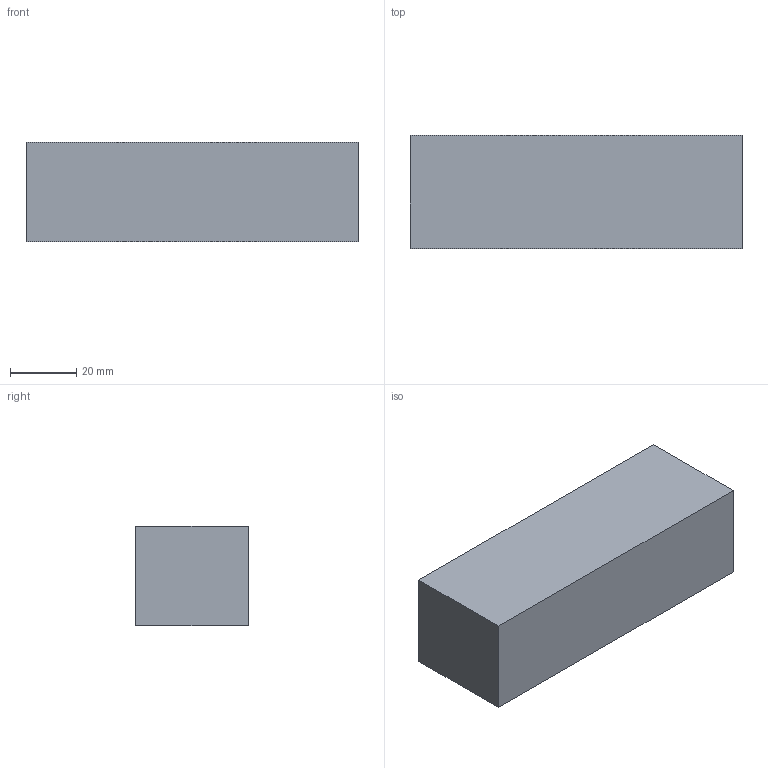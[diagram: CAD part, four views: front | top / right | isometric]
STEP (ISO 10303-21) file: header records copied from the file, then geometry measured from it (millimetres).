
FILE_DESCRIPTION(('Open CASCADE Model'),'2;1');
FILE_NAME('Open CASCADE Shape Model','2026-10-10T15:34:57',('Author'),( 'Open CASCADE'),'Open CASCADE STEP processor 7.9','Open CASCADE 7.9' ,'Unknown');
FILE_SCHEMA(('AUTOMOTIVE_DESIGN { 1 0 10303 214 1 1 1 1 }'));
Length unit declared in the file: millimetre
Products named in the file (1): Open CASCADE STEP translator 7.9 8
Bounding box: 100 x 34 x 30 mm (x, y, z)
Volume: 102000 mm3; surface area: 14840 mm2
Topology: 1 solids, 1 shells, 6 faces, 12 edges, 8 vertices
Faces by surface type: plane 6
Entity records: 322 total; most frequent: CARTESIAN_POINT 51, DIRECTION 50, LINE 36, VECTOR 36, ORIENTED_EDGE 24, PCURVE 24, DEFINITIONAL_REPRESENTATION 24, EDGE_CURVE 12
